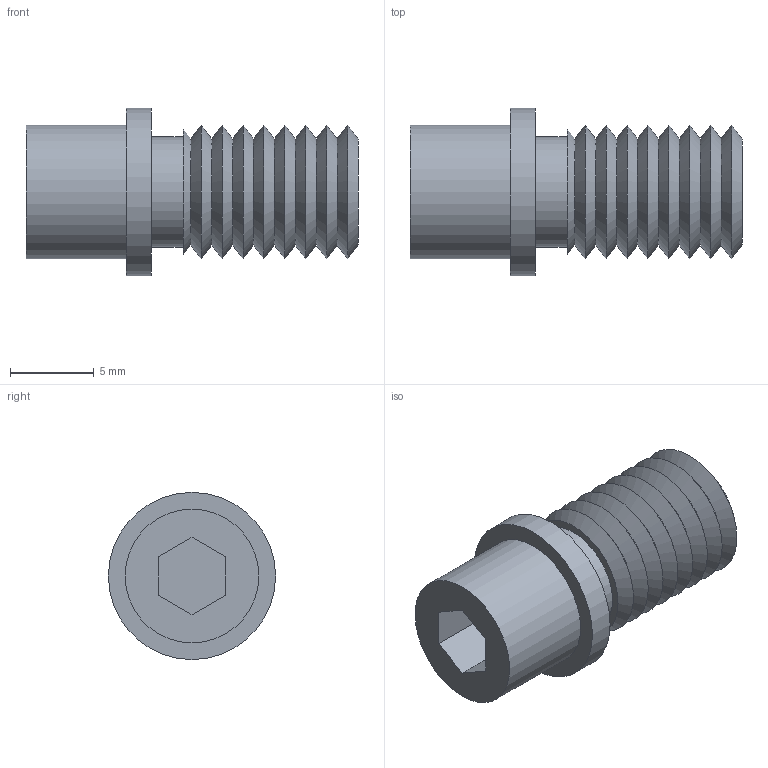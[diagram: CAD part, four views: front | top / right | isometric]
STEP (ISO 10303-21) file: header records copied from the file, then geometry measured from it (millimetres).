
FILE_DESCRIPTION((''),'1');
FILE_NAME('H:/図庫/国内ﾕﾆｯﾄ/ﾓﾉﾀﾛｳ/ホームページ用CAD図/ネジ付き', '2020-04-29T02:43:37',(''), (''), 'KCM Version 1.1.1442.0', 'Kubotek KeyCreator', '');
FILE_SCHEMA(('AUTOMOTIVE_DESIGN'));
Length unit declared in the file: millimetre
Bounding box: 19.85 x 10 x 10 mm (x, y, z)
Surface area: 849.1 mm2 (no closed solid volume)
Topology: 0 solids, 32 shells, 32 faces, 104 edges, 84 vertices
Faces by surface type: cone 17, plane 12, cylinder 3
Full cylindrical faces by diameter (mm): 6.6 x1, 8 x1, 10 x1
Entity records: 1210 total; most frequent: CARTESIAN_POINT 221, DIRECTION 218, ORIENTED_EDGE 124, EDGE_CURVE 104, VERTEX_POINT 84, AXIS2_PLACEMENT_3D 81, VECTOR 56, LINE 56
